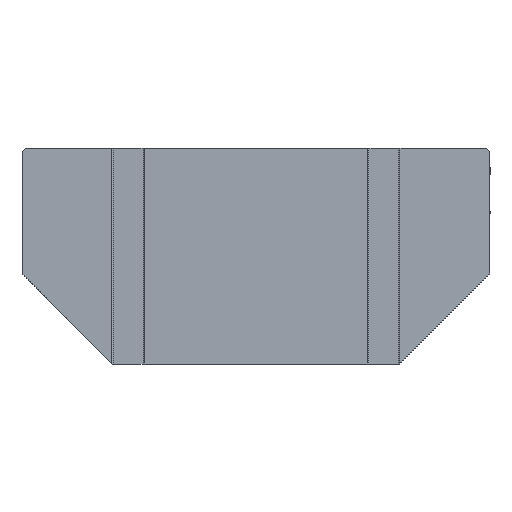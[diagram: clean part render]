
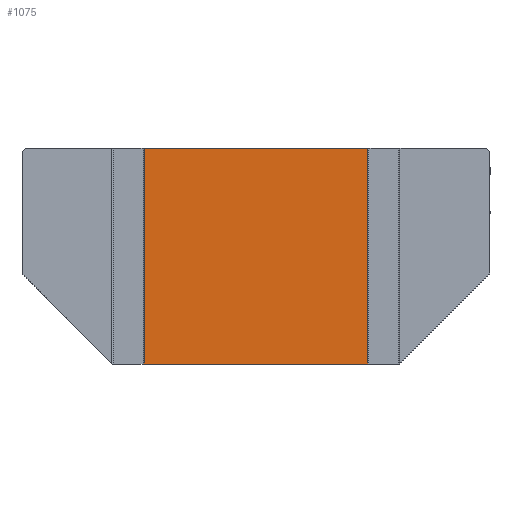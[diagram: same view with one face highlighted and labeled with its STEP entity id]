
A CAD part, front view. The second image highlights one B-rep face of the part: STEP entity #1075.
In plain terms, the highlighted planar face has unit normal (0, -1, 0).
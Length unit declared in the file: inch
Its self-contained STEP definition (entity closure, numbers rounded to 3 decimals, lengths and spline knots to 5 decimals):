
#45 = VERTEX_POINT ( 'NONE', #2208 ) ;
#86 = LINE ( 'NONE', #2330, #1152 ) ;
#156 = EDGE_CURVE ( 'NONE', #335, #1406, #2254, .T. ) ;
#275 = CARTESIAN_POINT ( 'NONE',  ( 0., -0.11811, 0. ) ) ;
#303 = PLANE ( 'NONE',  #420 ) ;
#335 = VERTEX_POINT ( 'NONE', #1542 ) ;
#420 = AXIS2_PLACEMENT_3D ( 'NONE', #275, #1016, #659 ) ;
#444 = ORIENTED_EDGE ( 'NONE', *, *, #1824, .T. ) ;
#447 = FACE_OUTER_BOUND ( 'NONE', #1994, .T. ) ;
#532 = VECTOR ( 'NONE', #601, 39.37008 ) ;
#535 = CARTESIAN_POINT ( 'NONE',  ( 0., -0.11811, 1.1811 ) ) ;
#601 = DIRECTION ( 'NONE',  ( 0., 0., 1. ) ) ;
#659 = DIRECTION ( 'NONE',  ( 0., 0., 1. ) ) ;
#765 = EDGE_CURVE ( 'NONE', #804, #45, #86, .T. ) ;
#804 = VERTEX_POINT ( 'NONE', #2373 ) ;
#931 = ORIENTED_EDGE ( 'NONE', *, *, #765, .T. ) ;
#1016 = DIRECTION ( 'NONE',  ( 0., 1., 0. ) ) ;
#1075 = ADVANCED_FACE ( 'NONE', ( #447 ), #303, .F. ) ;
#1096 = VECTOR ( 'NONE', #2006, 39.37008 ) ;
#1152 = VECTOR ( 'NONE', #1216, 39.37008 ) ;
#1216 = DIRECTION ( 'NONE',  ( 0., 0., 1. ) ) ;
#1301 = LINE ( 'NONE', #1816, #1382 ) ;
#1382 = VECTOR ( 'NONE', #1469, 39.37008 ) ;
#1406 = VERTEX_POINT ( 'NONE', #2172 ) ;
#1426 = ORIENTED_EDGE ( 'NONE', *, *, #156, .F. ) ;
#1469 = DIRECTION ( 'NONE',  ( 1., 0., 0. ) ) ;
#1472 = EDGE_CURVE ( 'NONE', #1406, #45, #2183, .T. ) ;
#1542 = CARTESIAN_POINT ( 'NONE',  ( -1.22047, -0.11811, -1.1811 ) ) ;
#1673 = CARTESIAN_POINT ( 'NONE',  ( -1.22047, -0.11811, 0. ) ) ;
#1816 = CARTESIAN_POINT ( 'NONE',  ( 2.55906, -0.11811, -1.1811 ) ) ;
#1824 = EDGE_CURVE ( 'NONE', #335, #804, #1301, .T. ) ;
#1970 = ORIENTED_EDGE ( 'NONE', *, *, #1472, .F. ) ;
#1994 = EDGE_LOOP ( 'NONE', ( #444, #931, #1970, #1426 ) ) ;
#2006 = DIRECTION ( 'NONE',  ( 1., 0., 0. ) ) ;
#2172 = CARTESIAN_POINT ( 'NONE',  ( -1.22047, -0.11811, 1.1811 ) ) ;
#2183 = LINE ( 'NONE', #535, #1096 ) ;
#2208 = CARTESIAN_POINT ( 'NONE',  ( 1.22047, -0.11811, 1.1811 ) ) ;
#2254 = LINE ( 'NONE', #1673, #532 ) ;
#2330 = CARTESIAN_POINT ( 'NONE',  ( 1.22047, -0.11811, -1.1811 ) ) ;
#2373 = CARTESIAN_POINT ( 'NONE',  ( 1.22047, -0.11811, -1.1811 ) ) ;
